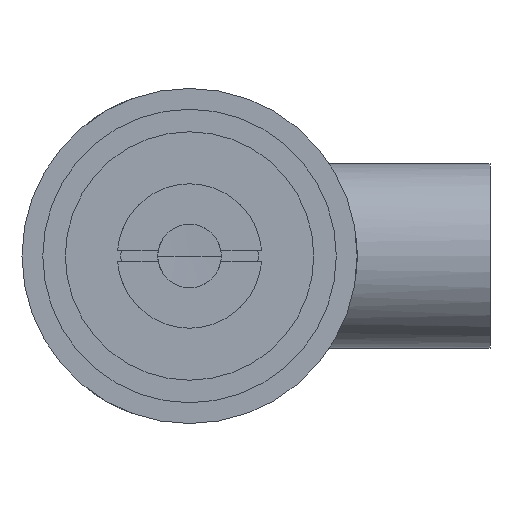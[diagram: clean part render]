
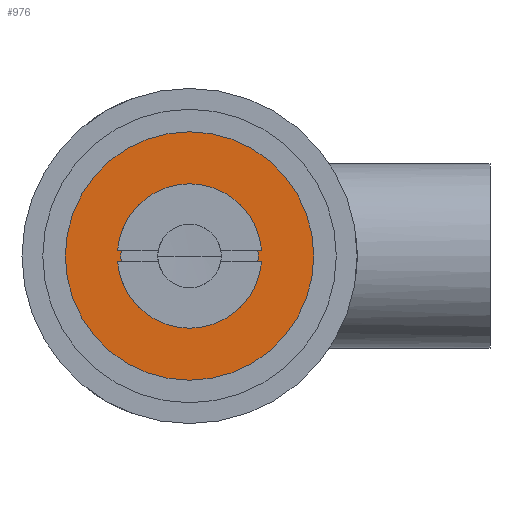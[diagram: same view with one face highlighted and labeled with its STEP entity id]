
A CAD part, front view. The second image highlights one B-rep face of the part: STEP entity #976.
In plain terms, the highlighted planar face has unit normal (0, -1, 0).
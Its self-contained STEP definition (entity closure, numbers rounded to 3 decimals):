
#31 = VERTEX_POINT ( 'NONE', #3045 ) ;
#83 = CARTESIAN_POINT ( 'NONE',  ( 0., -103.93, 0. ) ) ;
#225 = ORIENTED_EDGE ( 'NONE', *, *, #409, .T. ) ;
#319 = PLANE ( 'NONE',  #3330 ) ;
#353 = DIRECTION ( 'NONE',  ( 0., 0., 1. ) ) ;
#409 = EDGE_CURVE ( 'NONE', #3391, #3564, #2891, .T. ) ;
#537 = AXIS2_PLACEMENT_3D ( 'NONE', #83, #2119, #353 ) ;
#616 = CARTESIAN_POINT ( 'NONE',  ( -11.5, -103.93, 0. ) ) ;
#729 = EDGE_CURVE ( 'NONE', #3267, #31, #1899, .T. ) ;
#864 = AXIS2_PLACEMENT_3D ( 'NONE', #1877, #2184, #2453 ) ;
#933 = EDGE_LOOP ( 'NONE', ( #225, #3051 ) ) ;
#976 = ADVANCED_FACE ( 'NONE', ( #1723, #2569 ), #319, .T. ) ;
#1022 = ORIENTED_EDGE ( 'NONE', *, *, #1698, .F. ) ;
#1090 = CIRCLE ( 'NONE', #3234, 11.5 ) ;
#1222 = DIRECTION ( 'NONE',  ( 0., -1., 0. ) ) ;
#1456 = CARTESIAN_POINT ( 'NONE',  ( 0., -103.93, 0. ) ) ;
#1645 = CARTESIAN_POINT ( 'NONE',  ( 0., -103.93, 0. ) ) ;
#1698 = EDGE_CURVE ( 'NONE', #31, #3267, #1090, .T. ) ;
#1723 = FACE_BOUND ( 'NONE', #933, .T. ) ;
#1742 = DIRECTION ( 'NONE',  ( 0., 0., 1. ) ) ;
#1802 = CARTESIAN_POINT ( 'NONE',  ( 0., -103.93, 11.5 ) ) ;
#1831 = CARTESIAN_POINT ( 'NONE',  ( 0., -103.93, 5.95 ) ) ;
#1874 = EDGE_CURVE ( 'NONE', #3564, #3391, #3541, .T. ) ;
#1877 = CARTESIAN_POINT ( 'NONE',  ( 0., -103.93, 0. ) ) ;
#1899 = CIRCLE ( 'NONE', #864, 11.5 ) ;
#1933 = DIRECTION ( 'NONE',  ( 0., 0., 1. ) ) ;
#1962 = AXIS2_PLACEMENT_3D ( 'NONE', #1456, #3482, #1742 ) ;
#2119 = DIRECTION ( 'NONE',  ( 0., 1., 0. ) ) ;
#2184 = DIRECTION ( 'NONE',  ( 0., 1., 0. ) ) ;
#2453 = DIRECTION ( 'NONE',  ( 0., 0., 1. ) ) ;
#2569 = FACE_OUTER_BOUND ( 'NONE', #3563, .T. ) ;
#2824 = CARTESIAN_POINT ( 'NONE',  ( 0., -103.93, -5.95 ) ) ;
#2891 = CIRCLE ( 'NONE', #537, 5.95 ) ;
#3045 = CARTESIAN_POINT ( 'NONE',  ( 0., -103.93, -11.5 ) ) ;
#3051 = ORIENTED_EDGE ( 'NONE', *, *, #1874, .T. ) ;
#3234 = AXIS2_PLACEMENT_3D ( 'NONE', #1645, #3682, #1933 ) ;
#3248 = DIRECTION ( 'NONE',  ( 0., 0., -1. ) ) ;
#3267 = VERTEX_POINT ( 'NONE', #1802 ) ;
#3330 = AXIS2_PLACEMENT_3D ( 'NONE', #616, #1222, #3248 ) ;
#3391 = VERTEX_POINT ( 'NONE', #1831 ) ;
#3482 = DIRECTION ( 'NONE',  ( 0., 1., 0. ) ) ;
#3541 = CIRCLE ( 'NONE', #1962, 5.95 ) ;
#3563 = EDGE_LOOP ( 'NONE', ( #3702, #1022 ) ) ;
#3564 = VERTEX_POINT ( 'NONE', #2824 ) ;
#3682 = DIRECTION ( 'NONE',  ( 0., 1., 0. ) ) ;
#3702 = ORIENTED_EDGE ( 'NONE', *, *, #729, .F. ) ;
